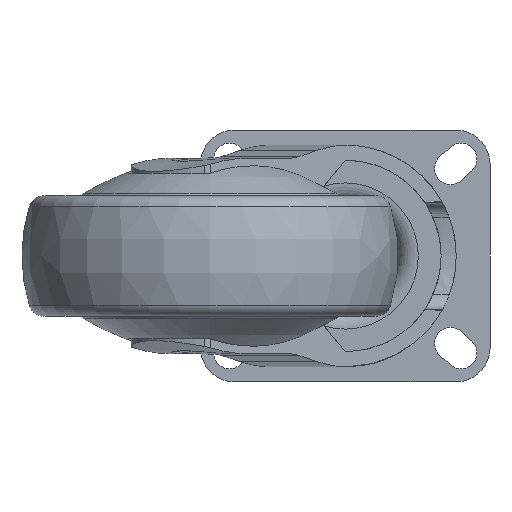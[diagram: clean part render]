
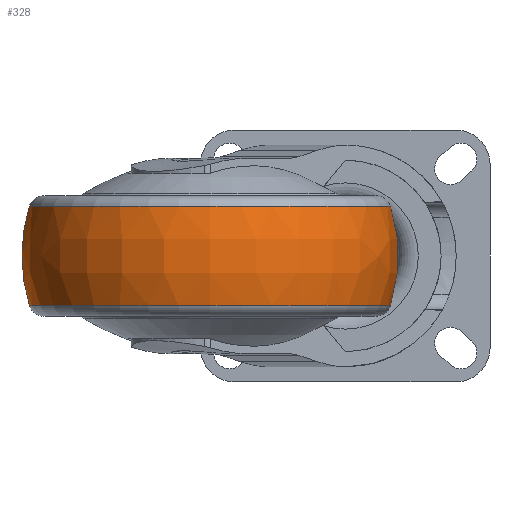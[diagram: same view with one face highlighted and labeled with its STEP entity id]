
A CAD part, front view. The second image highlights one B-rep face of the part: STEP entity #328.
In plain terms, the highlighted free-form (B-spline) face has degree [3, 3] with [4, 7] control points.
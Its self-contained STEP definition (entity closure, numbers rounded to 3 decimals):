
#328 = ADVANCED_FACE( '', ( #761, #762 ), #763, .T. );
#761 = FACE_OUTER_BOUND( '', #1330, .T. );
#762 = FACE_OUTER_BOUND( '', #1331, .T. );
#763 = ( BOUNDED_SURFACE(  )B_SPLINE_SURFACE( 3, 3, ( ( #1334, #1335, #1336, #1337, #1338, #1339, #1340 ), ( #1341, #1342, #1343, #1344, #1345, #1346, #1347 ), ( #1348, #1349, #1350, #1351, #1352, #1353, #1354 ), ( #1355, #1356, #1357, #1358, #1359, #1360, #1361 ) ), .UNSPECIFIED., .F., .T., .F. )B_SPLINE_SURFACE_WITH_KNOTS( ( 4, 4 ), ( 4, 3, 4 ), ( 0., 6.283 ), ( -0.297, 0., 0.297 ), .UNSPECIFIED. )GEOMETRIC_REPRESENTATION_ITEM(  )RATIONAL_B_SPLINE_SURFACE( ( ( 1., 0.333, 0.333, 1., 0.333, 0.333, 1. ), ( 0.971, 0.324, 0.324, 0.971, 0.324, 0.324, 0.971 ), ( 0.971, 0.324, 0.324, 0.971, 0.324, 0.324, 0.971 ), ( 1., 0.333, 0.333, 1., 0.333, 0.333, 1. ) ) )REPRESENTATION_ITEM( '' )SURFACE(  ) );
#1330 = EDGE_LOOP( '', ( #2161 ) );
#1331 = EDGE_LOOP( '', ( #2162 ) );
#1334 = CARTESIAN_POINT( '', ( -48.029, 0., -13.171 ) );
#1335 = CARTESIAN_POINT( '', ( -48.029, 96.059, -13.171 ) );
#1336 = CARTESIAN_POINT( '', ( 48.029, 96.059, -13.171 ) );
#1337 = CARTESIAN_POINT( '', ( 48.029, 0., -13.171 ) );
#1338 = CARTESIAN_POINT( '', ( 48.029, -96.059, -13.171 ) );
#1339 = CARTESIAN_POINT( '', ( -48.029, -96.059, -13.171 ) );
#1340 = CARTESIAN_POINT( '', ( -48.029, 0., -13.171 ) );
#1341 = CARTESIAN_POINT( '', ( -50.677, 0., -4.522 ) );
#1342 = CARTESIAN_POINT( '', ( -50.677, 101.353, -4.522 ) );
#1343 = CARTESIAN_POINT( '', ( 50.677, 101.353, -4.522 ) );
#1344 = CARTESIAN_POINT( '', ( 50.677, 0., -4.522 ) );
#1345 = CARTESIAN_POINT( '', ( 50.677, -101.353, -4.522 ) );
#1346 = CARTESIAN_POINT( '', ( -50.677, -101.353, -4.522 ) );
#1347 = CARTESIAN_POINT( '', ( -50.677, 0., -4.522 ) );
#1348 = CARTESIAN_POINT( '', ( -50.677, 0., 4.522 ) );
#1349 = CARTESIAN_POINT( '', ( -50.677, 101.353, 4.522 ) );
#1350 = CARTESIAN_POINT( '', ( 50.677, 101.353, 4.522 ) );
#1351 = CARTESIAN_POINT( '', ( 50.677, 0., 4.522 ) );
#1352 = CARTESIAN_POINT( '', ( 50.677, -101.353, 4.522 ) );
#1353 = CARTESIAN_POINT( '', ( -50.677, -101.353, 4.522 ) );
#1354 = CARTESIAN_POINT( '', ( -50.677, 0., 4.522 ) );
#1355 = CARTESIAN_POINT( '', ( -48.029, 0., 13.171 ) );
#1356 = CARTESIAN_POINT( '', ( -48.029, 96.059, 13.171 ) );
#1357 = CARTESIAN_POINT( '', ( 48.029, 96.059, 13.171 ) );
#1358 = CARTESIAN_POINT( '', ( 48.029, 0., 13.171 ) );
#1359 = CARTESIAN_POINT( '', ( 48.029, -96.059, 13.171 ) );
#1360 = CARTESIAN_POINT( '', ( -48.029, -96.059, 13.171 ) );
#1361 = CARTESIAN_POINT( '', ( -48.029, 0., 13.171 ) );
#2161 = ORIENTED_EDGE( '', *, *, #3174, .T. );
#2162 = ORIENTED_EDGE( '', *, *, #3276, .F. );
#3174 = EDGE_CURVE( '', #3773, #3773, #3774, .T. );
#3276 = EDGE_CURVE( '', #3937, #3937, #3938, .T. );
#3773 = VERTEX_POINT( '', #4724 );
#3774 = CIRCLE( '', #4725, 48.029 );
#3937 = VERTEX_POINT( '', #5024 );
#3938 = CIRCLE( '', #5025, 48.029 );
#4724 = CARTESIAN_POINT( '', ( -48.029, 0., 13.171 ) );
#4725 = AXIS2_PLACEMENT_3D( '', #5870, #5871, #5872 );
#5024 = CARTESIAN_POINT( '', ( -48.029, 0., -13.171 ) );
#5025 = AXIS2_PLACEMENT_3D( '', #6011, #6012, #6013 );
#5870 = CARTESIAN_POINT( '', ( 0., 0., 13.171 ) );
#5871 = DIRECTION( '', ( 0., 0., -1. ) );
#5872 = DIRECTION( '', ( -1., 0., 0. ) );
#6011 = CARTESIAN_POINT( '', ( 0., 0., -13.171 ) );
#6012 = DIRECTION( '', ( 0., 0., -1. ) );
#6013 = DIRECTION( '', ( -1., 0., 0. ) );
